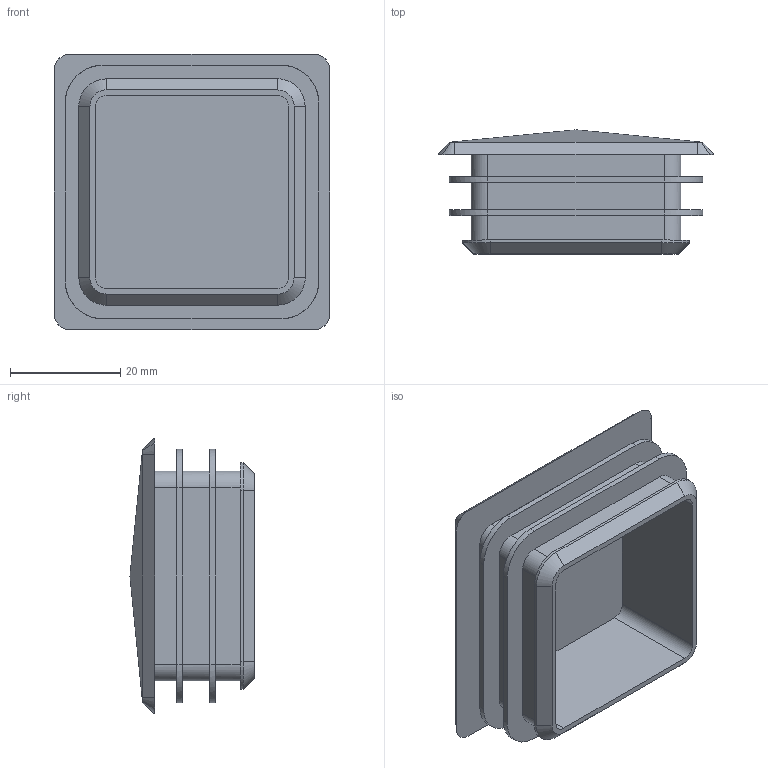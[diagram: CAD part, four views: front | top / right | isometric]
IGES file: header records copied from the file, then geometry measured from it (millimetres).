
Global section: file name: DR_PR4-5050-H; native system: Autodesk Inventor 2015; preprocessor: unknown; author: user; date: 20210129.175406; units: millimetre
Bounding box: 50 x 22.5 x 50 mm (x, y, z)
Volume: 12083.8 mm3; surface area: 13162.5 mm2
Topology: 1 solids, 1 shells, 92 faces, 228 edges, 145 vertices
Faces by surface type: bspline 92
